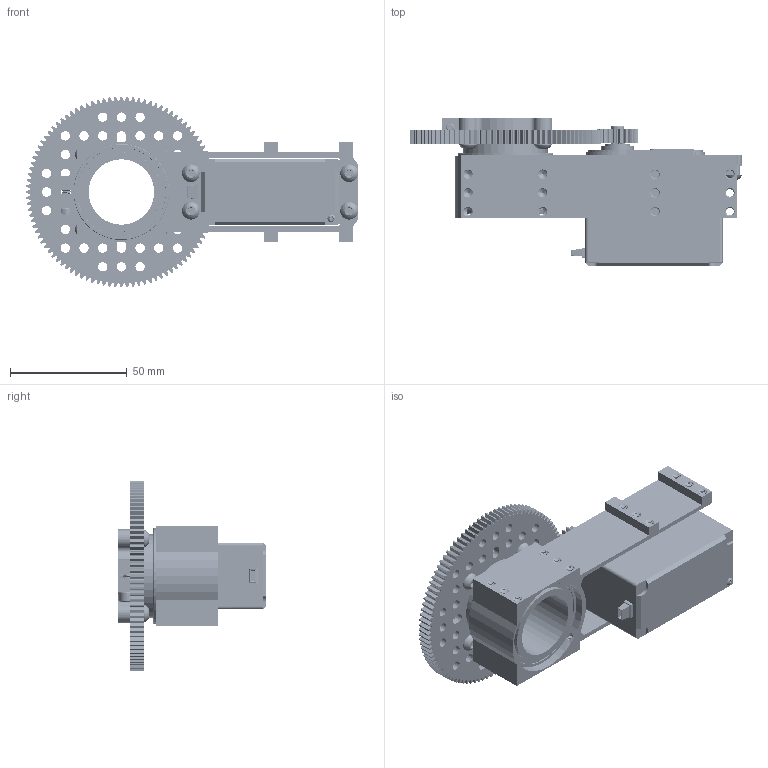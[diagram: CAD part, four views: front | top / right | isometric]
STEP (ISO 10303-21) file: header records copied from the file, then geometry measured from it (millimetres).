
FILE_DESCRIPTION (( 'STEP AP203' ), '1' );
FILE_NAME ('3206-0002-0005 assembly.STEP', '2018-11-07T20:40:13', ( '' ), ( '' ), 'SwSTEP 2.0', 'SolidWorks 2016', '' );
FILE_SCHEMA (( 'CONFIG_CONTROL_DESIGN' ));
Length unit declared in the file: millimetre
Products named in the file (18): 3206-0002-0005 assembly; Hitec HS-788HB; 2800-0004-0014_90128A207; rubber grommet for twisted lead; 1506-0032-0004; 1302-0032-0032 assembly; 1803-0043-0002; 2302-0032-0100_Gear Blank; 4102-2832-0039; 2305-0025-0020_Gear Blank; 2802-0004-0008_92095A480; H25T Karbonite spline; 1302-0032-0032; HS-700 Body; 3mm coarse thread screw (2.5mm drive); 2802-0004-0006_92095A480; 1601-0039-0032; case screw head_90272A075
Assembly tree (24 placements, depth 3):
  3206-0002-0005 assembly
    1803-0043-0002
    Hitec HS-788HB
      HS-700 Body
      rubber grommet for twisted lead
      case screw head_90272A075
      H25T Karbonite spline
    2802-0004-0008_92095A480  x4
    1601-0039-0032  x2
    4102-2832-0039
    1302-0032-0032 assembly
      1302-0032-0032
      2800-0004-0014_90128A207
    1506-0032-0004
    2802-0004-0006_92095A480  x4
    2305-0025-0020_Gear Blank
    2302-0032-0100_Gear Blank
    3mm coarse thread screw (2.5mm drive)
Bounding box: 141.97 x 63.2 x 81.6 mm (x, y, z)
Volume: 115565.7 mm3; surface area: 72381.8 mm2
Topology: 21 solids, 27 shells, 4297 faces, 11951 edges, 7724 vertices
Faces by surface type: cylinder 2364, bspline 698, plane 663, cone 321, torus 206, sphere 45
Entity records: 263467 total; most frequent: CARTESIAN_POINT 169648, ORIENTED_EDGE 22234, DIRECTION 16102, EDGE_CURVE 11123, VERTEX_POINT 7226, AXIS2_PLACEMENT_3D 5892, VECTOR 4318, LINE 4318
